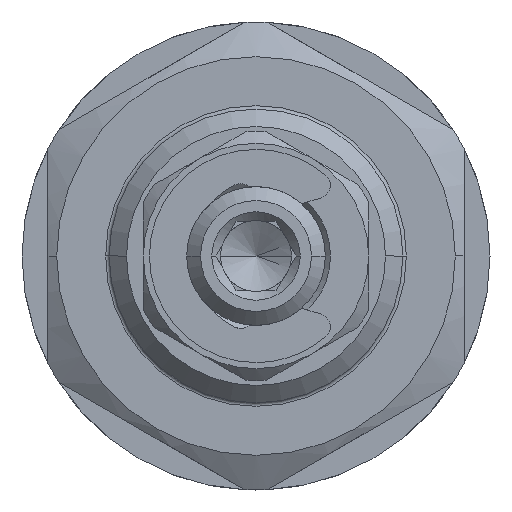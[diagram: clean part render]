
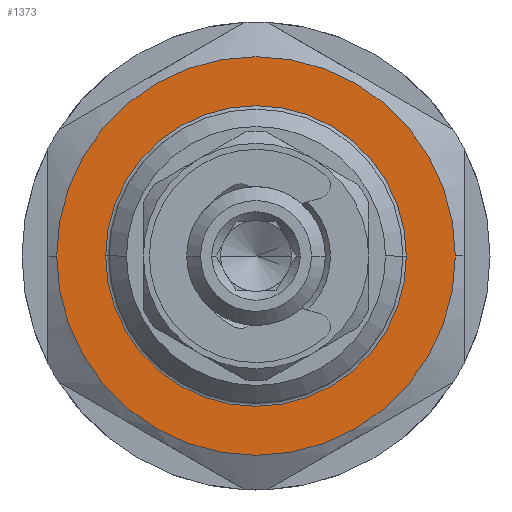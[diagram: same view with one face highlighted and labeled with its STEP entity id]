
A CAD part, left-side view. The second image highlights one B-rep face of the part: STEP entity #1373.
In plain terms, the highlighted planar face has unit normal (-1, 0, 0).
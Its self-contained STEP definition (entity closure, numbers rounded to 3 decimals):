
#13 = EDGE_LOOP ( 'NONE', ( #8236, #1101 ) ) ;
#392 = EDGE_CURVE ( 'NONE', #4755, #3267, #7681, .T. ) ;
#519 = CARTESIAN_POINT ( 'NONE',  ( 13., 8.673, 0. ) ) ;
#648 = AXIS2_PLACEMENT_3D ( 'NONE', #5142, #7537, #8314 ) ;
#753 = DIRECTION ( 'NONE',  ( -1., 0., 0. ) ) ;
#1101 = ORIENTED_EDGE ( 'NONE', *, *, #2231, .F. ) ;
#1373 = ADVANCED_FACE ( 'NONE', ( #3202, #3099 ), #3875, .T. ) ;
#1542 = AXIS2_PLACEMENT_3D ( 'NONE', #3984, #7113, #6490 ) ;
#2141 = CIRCLE ( 'NONE', #648, 8.673 ) ;
#2195 = VERTEX_POINT ( 'NONE', #8420 ) ;
#2231 = EDGE_CURVE ( 'NONE', #7359, #2195, #2141, .T. ) ;
#2609 = CARTESIAN_POINT ( 'NONE',  ( 13., 0., 0. ) ) ;
#2810 = DIRECTION ( 'NONE',  ( -1., 0., 0. ) ) ;
#2858 = CARTESIAN_POINT ( 'NONE',  ( 13., 0., 0. ) ) ;
#2897 = AXIS2_PLACEMENT_3D ( 'NONE', #8734, #753, #5617 ) ;
#3099 = FACE_BOUND ( 'NONE', #13, .T. ) ;
#3202 = FACE_OUTER_BOUND ( 'NONE', #4964, .T. ) ;
#3267 = VERTEX_POINT ( 'NONE', #7639 ) ;
#3875 = PLANE ( 'NONE',  #1542 ) ;
#3984 = CARTESIAN_POINT ( 'NONE',  ( 13., 0., 0. ) ) ;
#4267 = DIRECTION ( 'NONE',  ( 0., -1., 0. ) ) ;
#4387 = EDGE_CURVE ( 'NONE', #3267, #4755, #7400, .T. ) ;
#4755 = VERTEX_POINT ( 'NONE', #9657 ) ;
#4804 = ORIENTED_EDGE ( 'NONE', *, *, #4387, .T. ) ;
#4964 = EDGE_LOOP ( 'NONE', ( #4804, #7518 ) ) ;
#5142 = CARTESIAN_POINT ( 'NONE',  ( 13., 0., 0. ) ) ;
#5617 = DIRECTION ( 'NONE',  ( 0., -1., 0. ) ) ;
#5993 = DIRECTION ( 'NONE',  ( 0., -1., 0. ) ) ;
#6349 = AXIS2_PLACEMENT_3D ( 'NONE', #2858, #2810, #5993 ) ;
#6435 = CIRCLE ( 'NONE', #7263, 8.673 ) ;
#6490 = DIRECTION ( 'NONE',  ( 0., -1., 0. ) ) ;
#6552 = EDGE_CURVE ( 'NONE', #2195, #7359, #6435, .T. ) ;
#7113 = DIRECTION ( 'NONE',  ( -1., 0., 0. ) ) ;
#7263 = AXIS2_PLACEMENT_3D ( 'NONE', #2609, #8080, #4267 ) ;
#7359 = VERTEX_POINT ( 'NONE', #519 ) ;
#7400 = CIRCLE ( 'NONE', #2897, 11.5 ) ;
#7518 = ORIENTED_EDGE ( 'NONE', *, *, #392, .T. ) ;
#7537 = DIRECTION ( 'NONE',  ( -1., 0., 0. ) ) ;
#7639 = CARTESIAN_POINT ( 'NONE',  ( 13., 11.5, 0. ) ) ;
#7681 = CIRCLE ( 'NONE', #6349, 11.5 ) ;
#8080 = DIRECTION ( 'NONE',  ( -1., 0., 0. ) ) ;
#8236 = ORIENTED_EDGE ( 'NONE', *, *, #6552, .F. ) ;
#8314 = DIRECTION ( 'NONE',  ( 0., -1., 0. ) ) ;
#8420 = CARTESIAN_POINT ( 'NONE',  ( 13., -8.673, 0. ) ) ;
#8734 = CARTESIAN_POINT ( 'NONE',  ( 13., 0., 0. ) ) ;
#9657 = CARTESIAN_POINT ( 'NONE',  ( 13., -11.5, 0. ) ) ;
